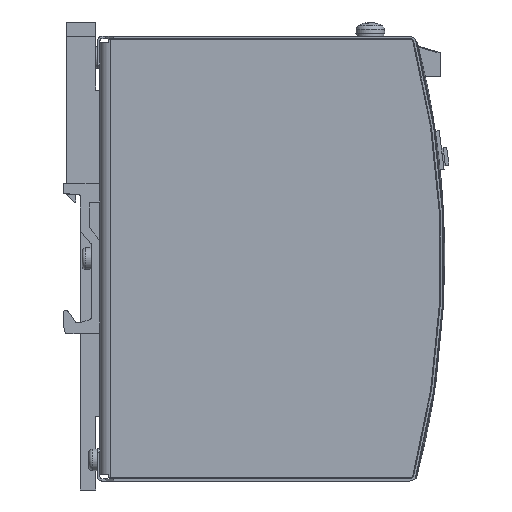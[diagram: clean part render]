
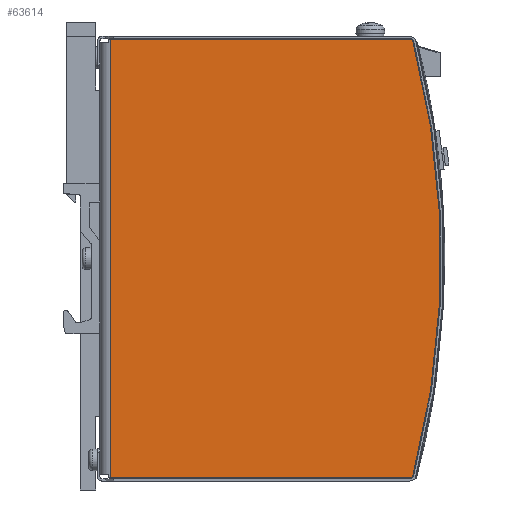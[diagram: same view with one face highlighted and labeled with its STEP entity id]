
A CAD part, front view. The second image highlights one B-rep face of the part: STEP entity #63614.
In plain terms, the highlighted planar face has unit normal (0, -1, 0).
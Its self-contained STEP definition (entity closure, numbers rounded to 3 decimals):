
#4516=CIRCLE('',#67402,0.5);
#4519=CIRCLE('',#67406,240.);
#4527=CIRCLE('',#67420,0.5);
#5041=FACE_OUTER_BOUND('',#8434,.T.);
#8434=EDGE_LOOP('',(#42446,#42447,#42448,#42449,#42450,#42451));
#12613=LINE('',#83786,#19533);
#12641=LINE('',#83849,#19561);
#12644=LINE('',#83855,#19564);
#19533=VECTOR('',#70554,10.);
#19561=VECTOR('',#70598,10.);
#19564=VECTOR('',#70603,10.);
#26457=VERTEX_POINT('',#83783);
#26458=VERTEX_POINT('',#83785);
#26485=VERTEX_POINT('',#83847);
#26487=VERTEX_POINT('',#83853);
#26515=VERTEX_POINT('',#83959);
#26518=VERTEX_POINT('',#83967);
#32765=EDGE_CURVE('',#26458,#26457,#12613,.T.);
#32798=EDGE_CURVE('',#26457,#26485,#12641,.T.);
#32801=EDGE_CURVE('',#26487,#26485,#12644,.T.);
#32853=EDGE_CURVE('',#26515,#26487,#4516,.T.);
#32858=EDGE_CURVE('',#26515,#26518,#4519,.T.);
#32871=EDGE_CURVE('',#26458,#26518,#4527,.T.);
#42446=ORIENTED_EDGE('',*,*,#32853,.F.);
#42447=ORIENTED_EDGE('',*,*,#32858,.T.);
#42448=ORIENTED_EDGE('',*,*,#32871,.F.);
#42449=ORIENTED_EDGE('',*,*,#32765,.T.);
#42450=ORIENTED_EDGE('',*,*,#32798,.T.);
#42451=ORIENTED_EDGE('',*,*,#32801,.F.);
#61219=PLANE('',#67422);
#63614=ADVANCED_FACE('',(#5041),#61219,.T.);
#67402=AXIS2_PLACEMENT_3D('',#83960,#70709,#70710);
#67406=AXIS2_PLACEMENT_3D('',#83969,#70719,#70720);
#67420=AXIS2_PLACEMENT_3D('',#83995,#70752,#70753);
#67422=AXIS2_PLACEMENT_3D('',#84000,#70758,#70759);
#70554=DIRECTION('',(-1.,0.,0.));
#70598=DIRECTION('',(0.,0.,-1.));
#70603=DIRECTION('',(-1.,0.,0.));
#70709=DIRECTION('center_axis',(0.,1.,0.));
#70710=DIRECTION('ref_axis',(0.611,0.,-0.792));
#70719=DIRECTION('center_axis',(0.,-1.,0.));
#70720=DIRECTION('ref_axis',(-0.967,0.,-0.255));
#70752=DIRECTION('center_axis',(0.,1.,0.));
#70753=DIRECTION('ref_axis',(0.611,0.,0.792));
#70758=DIRECTION('center_axis',(0.,-1.,0.));
#70759=DIRECTION('ref_axis',(0.,0.,-1.));
#83783=CARTESIAN_POINT('',(3.,-32.,61.15));
#83785=CARTESIAN_POINT('',(86.693,-32.,61.15));
#83786=CARTESIAN_POINT('',(95.,-32.,61.15));
#83847=CARTESIAN_POINT('',(3.,-32.,-61.15));
#83849=CARTESIAN_POINT('',(3.,-32.,-61.15));
#83853=CARTESIAN_POINT('',(86.693,-32.,-61.15));
#83855=CARTESIAN_POINT('',(95.,-32.,-61.15));
#83959=CARTESIAN_POINT('',(87.177,-32.,-60.777));
#83960=CARTESIAN_POINT('Origin',(86.693,-32.,-60.65));
#83967=CARTESIAN_POINT('',(87.177,-32.,60.777));
#83969=CARTESIAN_POINT('Origin',(-145.,-32.,0.));
#83995=CARTESIAN_POINT('Origin',(86.693,-32.,60.65));
#84000=CARTESIAN_POINT('Origin',(95.,-32.,-61.15));
